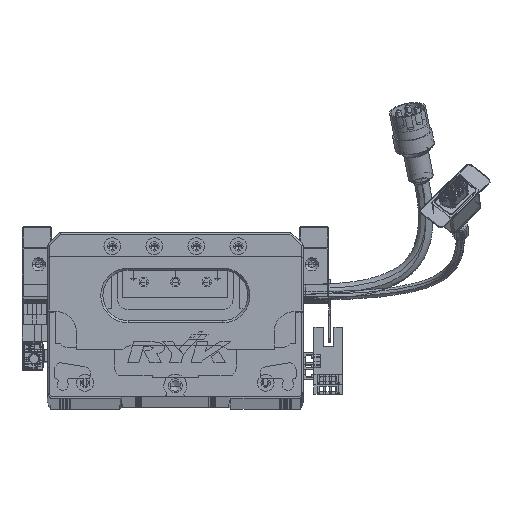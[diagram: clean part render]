
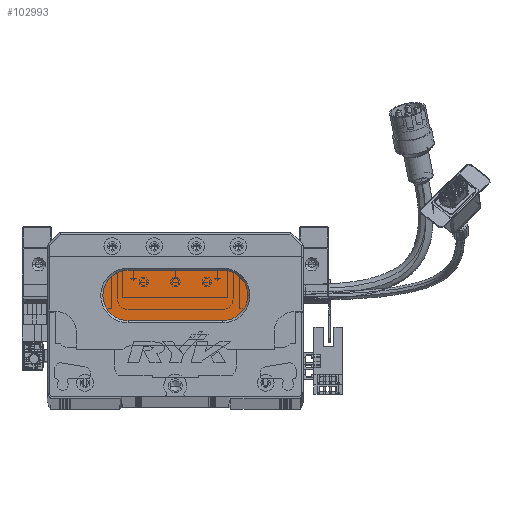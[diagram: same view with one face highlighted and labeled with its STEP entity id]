
A CAD part, top view. The second image highlights one B-rep face of the part: STEP entity #102993.
In plain terms, the highlighted planar face has unit normal (0, 0, 1) as drawn and (0, 0, -1) by its records, which use the part's own axes.
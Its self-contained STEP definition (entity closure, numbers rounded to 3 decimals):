
#2515 = DIRECTION ( 'NONE',  ( -1., 0., 0. ) ) ;
#2913 = AXIS2_PLACEMENT_3D ( 'NONE', #48204, #89278, #119355 ) ;
#3710 = LINE ( 'NONE', #48350, #79568 ) ;
#5193 = AXIS2_PLACEMENT_3D ( 'NONE', #83813, #23298, #51615 ) ;
#21735 = CARTESIAN_POINT ( 'NONE',  ( 83.5, 36., 13. ) ) ;
#22529 = CIRCLE ( 'NONE', #2913, 12. ) ;
#23298 = DIRECTION ( 'NONE',  ( 0., 0., -1. ) ) ;
#30061 = PLANE ( 'NONE',  #115525 ) ;
#30502 = CARTESIAN_POINT ( 'NONE',  ( 83.5, 48., 13. ) ) ;
#34084 = ORIENTED_EDGE ( 'NONE', *, *, #124156, .T. ) ;
#35299 = VERTEX_POINT ( 'NONE', #64779 ) ;
#44779 = EDGE_CURVE ( 'NONE', #70967, #68304, #22529, .T. ) ;
#48204 = CARTESIAN_POINT ( 'NONE',  ( 38.5, 48., 13. ) ) ;
#48350 = CARTESIAN_POINT ( 'NONE',  ( 83.5, 36., 13. ) ) ;
#51532 = ORIENTED_EDGE ( 'NONE', *, *, #76049, .T. ) ;
#51615 = DIRECTION ( 'NONE',  ( -1., 0., 0. ) ) ;
#52651 = VERTEX_POINT ( 'NONE', #111590 ) ;
#53374 = DIRECTION ( 'NONE',  ( 0., 0., -1. ) ) ;
#58925 = CARTESIAN_POINT ( 'NONE',  ( 26.5, 48., 13. ) ) ;
#64779 = CARTESIAN_POINT ( 'NONE',  ( 83.5, 60., 13. ) ) ;
#68175 = ORIENTED_EDGE ( 'NONE', *, *, #83825, .T. ) ;
#68304 = VERTEX_POINT ( 'NONE', #120707 ) ;
#70637 = AXIS2_PLACEMENT_3D ( 'NONE', #125845, #53374, #2515 ) ;
#70967 = VERTEX_POINT ( 'NONE', #58925 ) ;
#71163 = FACE_OUTER_BOUND ( 'NONE', #95767, .T. ) ;
#71923 = CIRCLE ( 'NONE', #5193, 12. ) ;
#76049 = EDGE_CURVE ( 'NONE', #68304, #35299, #108107, .T. ) ;
#76513 = ORIENTED_EDGE ( 'NONE', *, *, #99683, .T. ) ;
#77379 = DIRECTION ( 'NONE',  ( 1., 0., 0. ) ) ;
#79568 = VECTOR ( 'NONE', #99570, 1000. ) ;
#83813 = CARTESIAN_POINT ( 'NONE',  ( 83.5, 48., 13. ) ) ;
#83825 = EDGE_CURVE ( 'NONE', #98040, #52651, #3710, .T. ) ;
#89278 = DIRECTION ( 'NONE',  ( 0., 0., -1. ) ) ;
#94106 = ORIENTED_EDGE ( 'NONE', *, *, #44779, .T. ) ;
#95767 = EDGE_LOOP ( 'NONE', ( #76513, #68175, #34084, #94106, #51532 ) ) ;
#97251 = CIRCLE ( 'NONE', #70637, 12. ) ;
#98040 = VERTEX_POINT ( 'NONE', #21735 ) ;
#99570 = DIRECTION ( 'NONE',  ( -1., 0., 0. ) ) ;
#99683 = EDGE_CURVE ( 'NONE', #35299, #98040, #71923, .T. ) ;
#101194 = DIRECTION ( 'NONE',  ( -1., 0., 0. ) ) ;
#102993 = ADVANCED_FACE ( 'NONE', ( #71163 ), #30061, .T. ) ;
#108107 = LINE ( 'NONE', #118429, #114411 ) ;
#111590 = CARTESIAN_POINT ( 'NONE',  ( 38.5, 36., 13. ) ) ;
#114411 = VECTOR ( 'NONE', #77379, 1000. ) ;
#115525 = AXIS2_PLACEMENT_3D ( 'NONE', #30502, #129555, #101194 ) ;
#118429 = CARTESIAN_POINT ( 'NONE',  ( 83.5, 60., 13. ) ) ;
#119355 = DIRECTION ( 'NONE',  ( -1., 0., 0. ) ) ;
#120707 = CARTESIAN_POINT ( 'NONE',  ( 38.5, 60., 13. ) ) ;
#124156 = EDGE_CURVE ( 'NONE', #52651, #70967, #97251, .T. ) ;
#125845 = CARTESIAN_POINT ( 'NONE',  ( 38.5, 48., 13. ) ) ;
#129555 = DIRECTION ( 'NONE',  ( 0., 0., -1. ) ) ;
